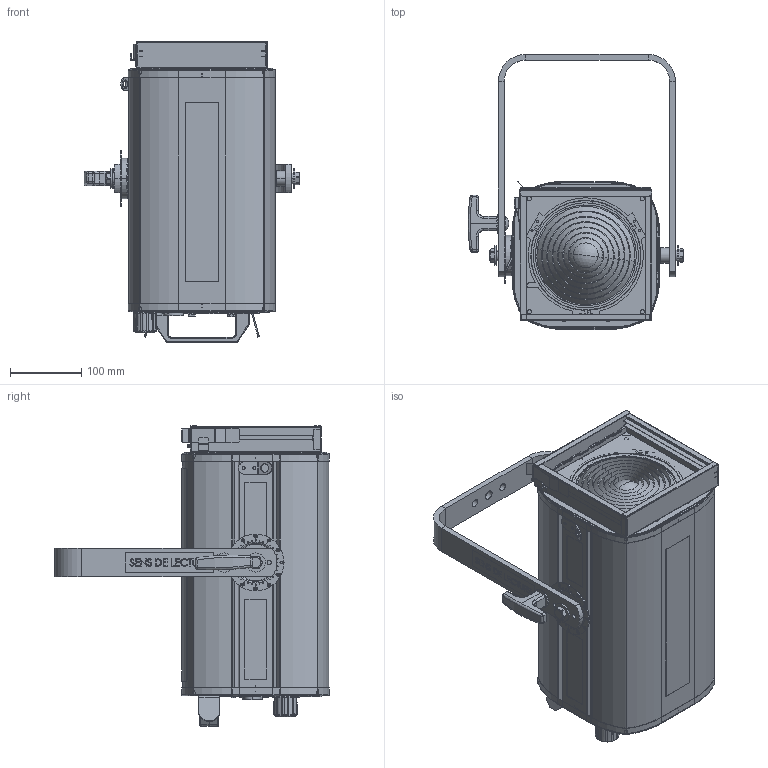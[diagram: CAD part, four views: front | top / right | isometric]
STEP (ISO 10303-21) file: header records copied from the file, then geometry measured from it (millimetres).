
FILE_DESCRIPTION (( 'STEP AP214' ), '1' );
FILE_NAME ('305LF.STEP', '2021-10-18T12:42:03', ( '' ), ( '' ), 'SwSTEP 2.0', 'SolidWorks 2019', '' );
FILE_SCHEMA (( 'AUTOMOTIVE_DESIGN' ));
Length unit declared in the file: millimetre
Products named in the file (1): 305LF
Bounding box: 303.7 x 386.8 x 423.6 mm (x, y, z)
Volume: 1034597.4 mm3; surface area: 1225538.7 mm2
Topology: 64 solids, 74 shells, 4660 faces, 11662 edges, 7432 vertices
Faces by surface type: plane 2545, cylinder 1078, bspline 377, cone 355, torus 267, sphere 38
Entity records: 214050 total; most frequent: CARTESIAN_POINT 50796, ORIENTED_EDGE 23248, DIRECTION 22534, EDGE_CURVE 11624, AXIS2_PLACEMENT_3D 7569, VERTEX_POINT 7428, VECTOR 7396, LINE 7396
